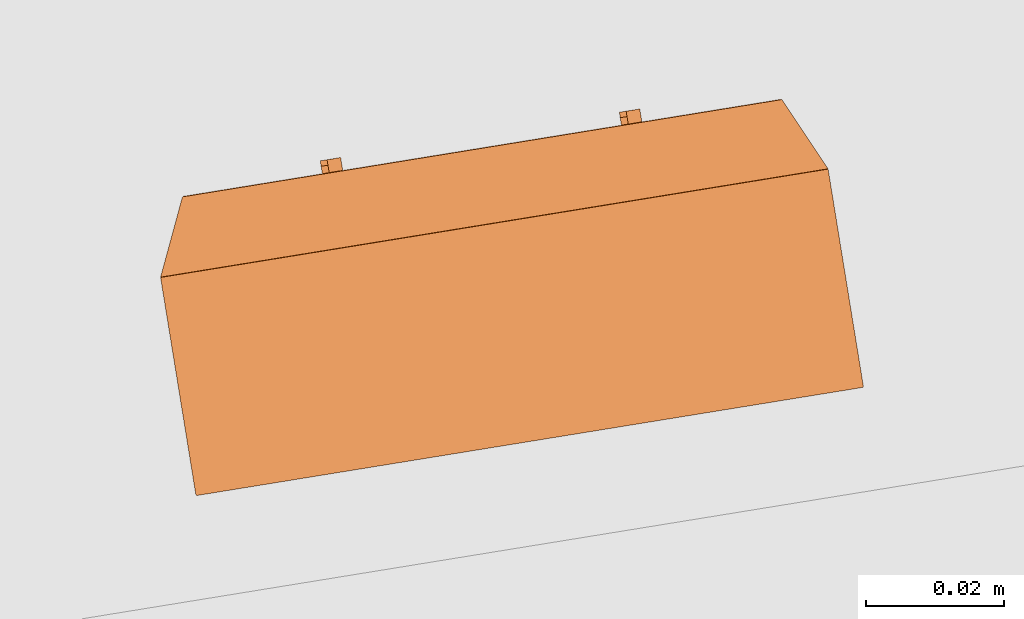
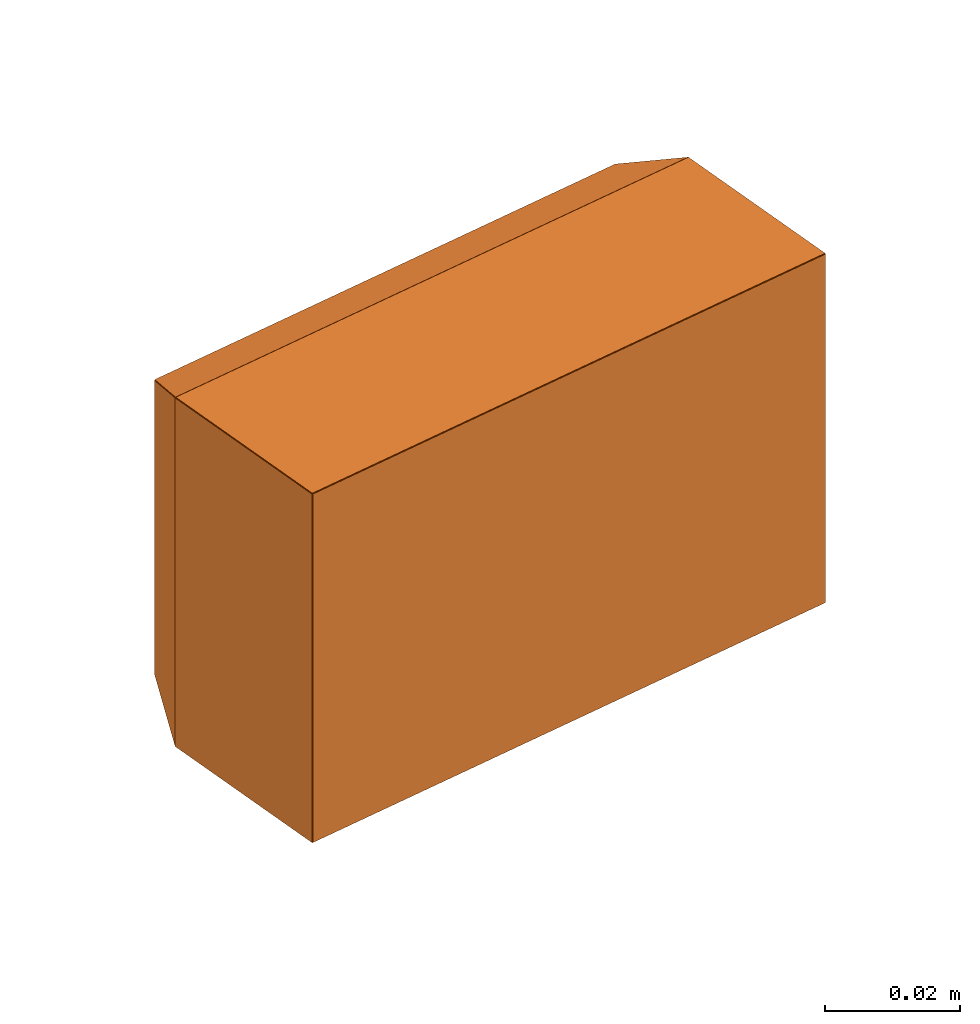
# One storey, part 12 of 33: 1 proxy.
"""IFC2X3 building model written with IfcOpenShell, lengths in millimetres."""

from ifc_helpers import new_model, entity, si_unit, converted_unit, derived_unit, direction, frame, frame_2d, origin, origin_with_axes, origin_2d_with_axis, place, context, subcontext, project, spatial, polyline, circle_curve, parameter, trimmed, segment, composite_curve, rectangle, circle, hollow_circle, outline, extrude, source, transform, mapped, material, type_object, element, save


model = new_model("IFC2X3")

# Units and contexts
plan_context = context("Plan", 3, precision=1e-05, world=origin_with_axes())
model_context = context("Model", 3, precision=0.01, world=origin(), true_north=direction((6.12323399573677e-17, 1.0)))
body_context = subcontext(model_context, "Body", "Model", "MODEL_VIEW")
ifc_project = project(units=[converted_unit("PLANEANGLEUNIT", "DEGREE", entity("IfcPositiveLengthMeasure", 0.0174532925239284), si_unit("PLANEANGLEUNIT", "RADIAN"), dimensions=[0, 0, 0, 0, 0, 0, 0]), si_unit("AREAUNIT", "SQUARE_METRE"), si_unit("LENGTHUNIT", "METRE", prefix="MILLI"), si_unit("MASSUNIT", "GRAM", prefix="KILO"), si_unit("POWERUNIT", "WATT"), si_unit("PRESSUREUNIT", "PASCAL", prefix="KILO"), si_unit("FORCEUNIT", "NEWTON", prefix="KILO"), si_unit("ELECTRICVOLTAGEUNIT", "VOLT"), si_unit("ELECTRICCURRENTUNIT", "AMPERE"), si_unit("THERMODYNAMICTEMPERATUREUNIT", "DEGREE_CELSIUS"), si_unit("TIMEUNIT", "SECOND"), si_unit("VOLUMEUNIT", "CUBIC_METRE"), derived_unit("LINEARVELOCITYUNIT", [(si_unit("LENGTHUNIT", "METRE"), 1), (si_unit("TIMEUNIT", "SECOND"), -1)]), derived_unit("VOLUMETRICFLOWRATEUNIT", [(si_unit("VOLUMEUNIT", "CUBIC_METRE"), 1), (si_unit("TIMEUNIT", "SECOND"), -1)]), derived_unit("THERMALTRANSMITTANCEUNIT", [(si_unit("POWERUNIT", "WATT"), 1), (si_unit("THERMODYNAMICTEMPERATUREUNIT", "KELVIN"), -1), (si_unit("AREAUNIT", "SQUARE_METRE"), -1)]), derived_unit("SOUNDPRESSUREUNIT", [(si_unit("PRESSUREUNIT", "PASCAL"), 1)])], contexts=[model_context, plan_context])

# Site, building, storey
site_placement = place(None, frame((-0.219946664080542, 0.12226179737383, 0.0), z_axis=(0.0, 0.0, 1.0), x_axis=(-0.160236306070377, 0.987078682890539, 0.0)))
site = spatial("IfcSite", under=ifc_project, at=site_placement, Name="Default", CompositionType="ELEMENT")
building_placement = place(site_placement, origin_with_axes())
building = spatial("IfcBuilding", under=site, at=building_placement, CompositionType="ELEMENT")
storey_placement = place(building_placement, frame((0.0, 0.0, 59000.0), z_axis=(0.0, 0.0, 1.0), x_axis=(1.0, 0.0, 0.0)))
storey = spatial("IfcBuildingStorey", under=building, at=storey_placement, Name="Nivå F", CompositionType="ELEMENT", Elevation=59000.0)

# Proxy
ifc_material = material(Name="<Unnamed>")
building_element_proxy_type = type_object("IfcBuildingElementProxyType", Name="Dobbel stikk på vegg 2P+J hor PH:EARTHED-SOCKET-2(HOR)", PredefinedType="NOTDEFINED", material=ifc_material)
shared_shape = source(origin(), body_context, "Body", "SweptSolid", [
    extrude(outline(composite_curve([segment(polyline([(-6.66666666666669, -6.66666666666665), (13.3333333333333, -6.66666666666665)]), True, "CONTINUOUS"), segment(trimmed(circle_curve(frame_2d((13.3333333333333, 13.3333333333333), x_axis=(0.0, -1.0)), 20.0), [parameter(270.0)], [parameter(5.08888749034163e-14)], True, "PARAMETER"), False, "CONTINUOUS"), segment(polyline([(-6.66666666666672, 13.3333333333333), (-6.66666666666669, -6.66666666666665)]), True, "CONTINUOUS")], self_intersect=False)), frame((35.3333333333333, 42.8999999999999, 13.3533333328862), z_axis=(0.0, 1.0, 0.0), x_axis=(0.0, 0.0, -1.0)), (0.0, 0.0, 1.0), 0.199999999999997),
    extrude(outline(composite_curve([segment(polyline([(-6.66666666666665, -6.66666666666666), (13.3333333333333, -6.66666666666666)]), True, "CONTINUOUS"), segment(trimmed(circle_curve(frame_2d((13.3333333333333, 13.3333333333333), x_axis=(-1.0, 0.0)), 20.0), [parameter(360.0)], [parameter(89.9999999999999)], True, "PARAMETER"), False, "CONTINUOUS"), segment(polyline([(-6.66666666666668, 13.3333333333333), (-6.66666666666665, -6.66666666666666)]), True, "CONTINUOUS")], self_intersect=False)), frame((35.3333333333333, 42.8999999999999, -13.3233333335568), z_axis=(0.0, 1.0, 0.0), x_axis=(-1.0, 0.0, 0.0)), (0.0, 0.0, 1.0), 0.199999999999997),
    extrude(outline(composite_curve([segment(polyline([(-6.66666666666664, -6.66666666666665), (13.3333333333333, -6.66666666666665)]), True, "CONTINUOUS"), segment(trimmed(circle_curve(frame_2d((13.3333333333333, 13.3333333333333), x_axis=(-1.0, 0.0)), 20.0), [parameter(0.0)], [parameter(89.9999999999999)], True, "PARAMETER"), False, "CONTINUOUS"), segment(polyline([(-6.66666666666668, 13.3333333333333), (-6.66666666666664, -6.66666666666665)]), True, "CONTINUOUS")], self_intersect=False)), frame((8.66666666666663, 42.8999999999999, 13.3433333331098), z_axis=(0.0, 1.0, 0.0), x_axis=(1.0, 0.0, 0.0)), (0.0, 0.0, 1.0), 0.199999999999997),
    extrude(outline(composite_curve([segment(polyline([(-6.66666666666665, -6.66666666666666), (13.3333333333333, -6.66666666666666)]), True, "CONTINUOUS"), segment(trimmed(circle_curve(frame_2d((13.3333333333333, 13.3333333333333), x_axis=(-1.0, 0.0)), 20.0), [parameter(360.0)], [parameter(89.9999999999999)], True, "PARAMETER"), False, "CONTINUOUS"), segment(polyline([(-6.66666666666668, 13.3333333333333), (-6.66666666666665, -6.66666666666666)]), True, "CONTINUOUS")], self_intersect=False)), frame((35.3333333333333, 42.8999999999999, -13.3433333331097), z_axis=(0.0, 1.0, 0.0), x_axis=(-1.0, 0.0, 0.0)), (0.0, 0.0, 1.0), 0.199999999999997),
    extrude(outline(composite_curve([segment(polyline([(-6.66666666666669, -6.66666666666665), (13.3333333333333, -6.66666666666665)]), True, "CONTINUOUS"), segment(trimmed(circle_curve(frame_2d((13.3333333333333, 13.3333333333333), x_axis=(0.0, -1.0)), 20.0), [parameter(270.0)], [parameter(5.08888749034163e-14)], True, "PARAMETER"), False, "CONTINUOUS"), segment(polyline([(-6.66666666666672, 13.3333333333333), (-6.66666666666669, -6.66666666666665)]), True, "CONTINUOUS")], self_intersect=False)), frame((35.3333333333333, 42.8999999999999, 13.3333333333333), z_axis=(0.0, 1.0, 0.0), x_axis=(0.0, 0.0, -1.0)), (0.0, 0.0, 1.0), 0.199999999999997),
    extrude(outline(composite_curve([segment(polyline([(-6.66666666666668, -6.66666666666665), (13.3333333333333, -6.66666666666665)]), True, "CONTINUOUS"), segment(trimmed(circle_curve(frame_2d((13.3333333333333, 13.3333333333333), x_axis=(0.0, -1.0)), 20.0), [parameter(270.0)], [parameter(0.0)], True, "PARAMETER"), False, "CONTINUOUS"), segment(polyline([(-6.66666666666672, 13.3333333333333), (-6.66666666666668, -6.66666666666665)]), True, "CONTINUOUS")], self_intersect=False)), frame((8.66666666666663, 42.8999999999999, -13.3333333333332), z_axis=(0.0, 1.0, 0.0), x_axis=(0.0, 0.0, 1.0)), (0.0, 0.0, 1.0), 0.199999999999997),
    extrude(outline(composite_curve([segment(polyline([(-6.66666666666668, -6.66666666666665), (13.3333333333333, -6.66666666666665)]), True, "CONTINUOUS"), segment(trimmed(circle_curve(frame_2d((13.3333333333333, 13.3333333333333), x_axis=(0.0, -1.0)), 20.0), [parameter(270.0)], [parameter(0.0)], True, "PARAMETER"), False, "CONTINUOUS"), segment(polyline([(-6.66666666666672, 13.3333333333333), (-6.66666666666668, -6.66666666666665)]), True, "CONTINUOUS")], self_intersect=False)), frame((-8.66666666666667, 42.8999999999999, 13.3533333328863), z_axis=(0.0, 1.0, 0.0), x_axis=(0.0, 0.0, -1.0)), (0.0, 0.0, 1.0), 0.199999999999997),
    extrude(outline(composite_curve([segment(polyline([(-6.66666666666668, -6.66666666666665), (13.3333333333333, -6.66666666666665)]), True, "CONTINUOUS"), segment(trimmed(circle_curve(frame_2d((13.3333333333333, 13.3333333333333), x_axis=(-1.0, 0.0)), 20.0), [parameter(0.0)], [parameter(90.0)], True, "PARAMETER"), False, "CONTINUOUS"), segment(polyline([(-6.66666666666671, 13.3333333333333), (-6.66666666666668, -6.66666666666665)]), True, "CONTINUOUS")], self_intersect=False)), frame((-8.66666666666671, 42.8999999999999, -13.3233333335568), z_axis=(0.0, 1.0, 0.0), x_axis=(-1.0, 0.0, 0.0)), (0.0, 0.0, 1.0), 0.199999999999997),
    extrude(outline(composite_curve([segment(polyline([(-6.66666666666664, -6.66666666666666), (13.3333333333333, -6.66666666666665)]), True, "CONTINUOUS"), segment(trimmed(circle_curve(frame_2d((13.3333333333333, 13.3333333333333), x_axis=(-1.0, 0.0)), 20.0), [parameter(360.0)], [parameter(89.9999999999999)], True, "PARAMETER"), False, "CONTINUOUS"), segment(polyline([(-6.66666666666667, 13.3333333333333), (-6.66666666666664, -6.66666666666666)]), True, "CONTINUOUS")], self_intersect=False)), frame((-35.3333333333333, 42.8999999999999, 13.3433333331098), z_axis=(0.0, 1.0, 0.0), x_axis=(1.0, 0.0, 0.0)), (0.0, 0.0, 1.0), 0.199999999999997),
    extrude(outline(composite_curve([segment(polyline([(-6.66666666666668, -6.66666666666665), (13.3333333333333, -6.66666666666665)]), True, "CONTINUOUS"), segment(trimmed(circle_curve(frame_2d((13.3333333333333, 13.3333333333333), x_axis=(-1.0, 0.0)), 20.0), [parameter(0.0)], [parameter(90.0)], True, "PARAMETER"), False, "CONTINUOUS"), segment(polyline([(-6.66666666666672, 13.3333333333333), (-6.66666666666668, -6.66666666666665)]), True, "CONTINUOUS")], self_intersect=False)), frame((-8.66666666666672, 42.8999999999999, -13.3433333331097), z_axis=(0.0, 1.0, 0.0), x_axis=(-1.0, 0.0, 0.0)), (0.0, 0.0, 1.0), 0.199999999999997),
    extrude(outline(composite_curve([segment(polyline([(-6.66666666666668, -6.66666666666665), (13.3333333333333, -6.66666666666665)]), True, "CONTINUOUS"), segment(trimmed(circle_curve(frame_2d((13.3333333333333, 13.3333333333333), x_axis=(0.0, -1.0)), 20.0), [parameter(270.0)], [parameter(0.0)], True, "PARAMETER"), False, "CONTINUOUS"), segment(polyline([(-6.66666666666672, 13.3333333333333), (-6.66666666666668, -6.66666666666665)]), True, "CONTINUOUS")], self_intersect=False)), frame((-8.66666666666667, 42.8999999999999, 13.3333333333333), z_axis=(0.0, 1.0, 0.0), x_axis=(0.0, 0.0, -1.0)), (0.0, 0.0, 1.0), 0.199999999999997),
    extrude(outline(composite_curve([segment(polyline([(-6.66666666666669, -6.66666666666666), (13.3333333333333, -6.66666666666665)]), True, "CONTINUOUS"), segment(trimmed(circle_curve(frame_2d((13.3333333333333, 13.3333333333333), x_axis=(0.0, -1.0)), 20.0), [parameter(270.0)], [parameter(5.08888749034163e-14)], True, "PARAMETER"), False, "CONTINUOUS"), segment(polyline([(-6.66666666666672, 13.3333333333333), (-6.66666666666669, -6.66666666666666)]), True, "CONTINUOUS")], self_intersect=False)), frame((-35.3333333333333, 42.8999999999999, -13.3333333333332), z_axis=(0.0, 1.0, 0.0), x_axis=(0.0, 0.0, 1.0)), (0.0, 0.0, 1.0), 0.199999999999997),
    extrude(rectangle(XDim=9.99999999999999, YDim=1.0, at=frame_2d((0.0, 2.1094237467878e-15), x_axis=(1.0, 0.0))), frame((22.0, 40.0, -17.6), z_axis=(0.0, 0.0, 1.0), x_axis=(0.0, -1.0, 0.0)), (0.0, 0.0, 1.0), 0.199999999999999),
    extrude(rectangle(XDim=21.5, YDim=1.0, at=frame_2d((0.0, 8.43769498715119e-15), x_axis=(1.0, 0.0))), frame((22.0, 32.25, -19.6), z_axis=(0.0, 0.0, 1.0), x_axis=(0.0, -1.0, 0.0)), (0.0, 0.0, 1.0), 0.200000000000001),
    extrude(rectangle(XDim=9.99999999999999, YDim=1.0, at=frame_2d((0.0, 2.1094237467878e-15), x_axis=(1.0, 0.0))), frame((22.0, 40.0, 17.4), z_axis=(0.0, 0.0, 1.0), x_axis=(0.0, -1.0, 0.0)), (0.0, 0.0, 1.0), 0.199999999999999),
    extrude(rectangle(XDim=21.5, YDim=1.0, at=frame_2d((0.0, 8.43769498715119e-15), x_axis=(1.0, 0.0))), frame((22.0, 32.25, 19.4), z_axis=(0.0, 0.0, 1.0), x_axis=(0.0, -1.0, 0.0)), (0.0, 0.0, 1.0), 0.200000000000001),
    extrude(rectangle(XDim=9.99999999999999, YDim=1.0, at=frame_2d((0.0, -2.1094237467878e-15), x_axis=(1.0, 0.0))), frame((-22.0, 40.0, -17.6), z_axis=(0.0, 0.0, 1.0), x_axis=(0.0, -1.0, 0.0)), (0.0, 0.0, 1.0), 0.199999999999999),
    extrude(rectangle(XDim=21.5, YDim=1.0, at=frame_2d((0.0, 8.43769498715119e-15), x_axis=(1.0, 0.0))), frame((-22.0, 32.25, -19.6), z_axis=(0.0, 0.0, 1.0), x_axis=(0.0, -1.0, 0.0)), (0.0, 0.0, 1.0), 0.200000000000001),
    extrude(rectangle(XDim=9.99999999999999, YDim=1.0, at=frame_2d((0.0, -2.1094237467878e-15), x_axis=(1.0, 0.0))), frame((-22.0, 40.0, 17.4), z_axis=(0.0, 0.0, 1.0), x_axis=(0.0, -1.0, 0.0)), (0.0, 0.0, 1.0), 0.199999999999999),
    extrude(rectangle(XDim=21.5, YDim=1.0, at=frame_2d((0.0, 8.43769498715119e-15), x_axis=(1.0, 0.0))), frame((-22.0, 32.25, 19.4), z_axis=(0.0, 0.0, 1.0), x_axis=(0.0, -1.0, 0.0)), (0.0, 0.0, 1.0), 0.200000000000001),
    extrude(rectangle(XDim=0.199999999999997, YDim=2.0, at=frame_2d((4.2257863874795e-15, 0.0), x_axis=(1.0, 0.0))), frame((43.0, 43.0, 0.0199999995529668), z_axis=(0.0, 0.0, 1.0), x_axis=(0.0, 1.0, 0.0)), (0.0, 0.0, 1.0), 20.0),
    extrude(rectangle(XDim=0.199999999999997, YDim=40.0, at=frame_2d((4.2257863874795e-15, 0.0), x_axis=(1.0, 0.0))), frame((22.0, 43.0, 20.0199999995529), z_axis=(0.0, 0.0, 1.0), x_axis=(0.0, 1.0, 0.0)), (0.0, 0.0, 1.0), 6.5),
    extrude(rectangle(XDim=0.199999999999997, YDim=2.0, at=frame_2d((4.2257863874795e-15, 0.0), x_axis=(1.0, 0.0))), frame((43.0, 43.0, -19.9900000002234), z_axis=(0.0, 0.0, 1.0), x_axis=(0.0, -1.0, 0.0)), (0.0, 0.0, 1.0), 20.0),
    extrude(rectangle(XDim=0.199999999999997, YDim=40.0, at=frame_2d((4.2257863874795e-15, 0.0), x_axis=(1.0, 0.0))), frame((22.0, 43.0, -26.4900000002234), z_axis=(0.0, 0.0, 1.0), x_axis=(0.0, -1.0, 0.0)), (0.0, 0.0, 1.0), 6.49999999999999),
    extrude(rectangle(XDim=0.199999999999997, YDim=2.0, at=frame_2d((4.2257863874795e-15, 0.0), x_axis=(1.0, 0.0))), frame((1.0, 43.0, 0.00999999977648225), z_axis=(0.0, 0.0, 1.0), x_axis=(0.0, -1.0, 0.0)), (0.0, 0.0, 1.0), 20.0),
    extrude(rectangle(XDim=0.199999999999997, YDim=2.0, at=frame_2d((4.2257863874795e-15, 0.0), x_axis=(1.0, 0.0))), frame((43.0, 43.0, -20.0099999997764), z_axis=(0.0, 0.0, 1.0), x_axis=(0.0, -1.0, 0.0)), (0.0, 0.0, 1.0), 20.0),
    extrude(rectangle(XDim=0.199999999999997, YDim=40.0, at=frame_2d((4.2257863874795e-15, 0.0), x_axis=(1.0, 0.0))), frame((22.0, 43.0, -26.5099999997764), z_axis=(0.0, 0.0, 1.0), x_axis=(0.0, -1.0, 0.0)), (0.0, 0.0, 1.0), 6.5),
    extrude(rectangle(XDim=0.199999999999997, YDim=2.0, at=frame_2d((4.2257863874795e-15, 0.0), x_axis=(1.0, 0.0))), frame((43.0, 43.0, 0.0), z_axis=(0.0, 0.0, 1.0), x_axis=(0.0, 1.0, 0.0)), (0.0, 0.0, 1.0), 20.0),
    extrude(rectangle(XDim=0.199999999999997, YDim=40.0, at=frame_2d((4.2257863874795e-15, 0.0), x_axis=(1.0, 0.0))), frame((22.0, 43.0, 20.0), z_axis=(0.0, 0.0, 1.0), x_axis=(0.0, 1.0, 0.0)), (0.0, 0.0, 1.0), 6.5),
    extrude(rectangle(XDim=0.199999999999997, YDim=2.0, at=frame_2d((4.2257863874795e-15, 0.0), x_axis=(1.0, 0.0))), frame((1.0, 43.0, -20.0), z_axis=(0.0, 0.0, 1.0), x_axis=(0.0, 1.0, 0.0)), (0.0, 0.0, 1.0), 20.0),
    extrude(rectangle(XDim=0.199999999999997, YDim=2.0, at=frame_2d((4.2257863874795e-15, 0.0), x_axis=(1.0, 0.0))), frame((-1.0, 43.0, 0.0199999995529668), z_axis=(0.0, 0.0, 1.0), x_axis=(0.0, 1.0, 0.0)), (0.0, 0.0, 1.0), 20.0),
    extrude(rectangle(XDim=0.199999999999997, YDim=40.0, at=frame_2d((4.2257863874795e-15, 0.0), x_axis=(1.0, 0.0))), frame((-22.0, 43.0, 20.0199999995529), z_axis=(0.0, 0.0, 1.0), x_axis=(0.0, 1.0, 0.0)), (0.0, 0.0, 1.0), 6.5),
    extrude(rectangle(XDim=0.199999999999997, YDim=2.0, at=frame_2d((4.2257863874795e-15, 0.0), x_axis=(1.0, 0.0))), frame((-1.0, 43.0, -19.9900000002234), z_axis=(0.0, 0.0, 1.0), x_axis=(0.0, -1.0, 0.0)), (0.0, 0.0, 1.0), 20.0),
    extrude(rectangle(XDim=0.199999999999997, YDim=40.0, at=frame_2d((4.2257863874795e-15, 0.0), x_axis=(1.0, 0.0))), frame((-22.0, 43.0, -26.4900000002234), z_axis=(0.0, 0.0, 1.0), x_axis=(0.0, -1.0, 0.0)), (0.0, 0.0, 1.0), 6.49999999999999),
    extrude(rectangle(XDim=0.199999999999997, YDim=1.99999999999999, at=frame_2d((4.2257863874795e-15, 4.2188474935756e-15), x_axis=(1.0, 0.0))), frame((-43.0, 43.0, 0.00999999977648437), z_axis=(0.0, 0.0, 1.0), x_axis=(0.0, -1.0, 0.0)), (0.0, 0.0, 1.0), 20.0),
    extrude(rectangle(XDim=0.199999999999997, YDim=2.0, at=frame_2d((4.2257863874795e-15, 0.0), x_axis=(1.0, 0.0))), frame((-1.0, 43.0, -20.0099999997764), z_axis=(0.0, 0.0, 1.0), x_axis=(0.0, -1.0, 0.0)), (0.0, 0.0, 1.0), 20.0),
    extrude(rectangle(XDim=0.199999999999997, YDim=40.0, at=frame_2d((4.2257863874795e-15, 0.0), x_axis=(1.0, 0.0))), frame((-22.0, 43.0, -26.5099999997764), z_axis=(0.0, 0.0, 1.0), x_axis=(0.0, -1.0, 0.0)), (0.0, 0.0, 1.0), 6.5),
    extrude(rectangle(XDim=0.199999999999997, YDim=2.0, at=frame_2d((4.2257863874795e-15, 0.0), x_axis=(1.0, 0.0))), frame((-1.0, 43.0, 0.0), z_axis=(0.0, 0.0, 1.0), x_axis=(0.0, 1.0, 0.0)), (0.0, 0.0, 1.0), 20.0),
    extrude(rectangle(XDim=0.199999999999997, YDim=40.0, at=frame_2d((4.2257863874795e-15, 0.0), x_axis=(1.0, 0.0))), frame((-22.0, 43.0, 20.0), z_axis=(0.0, 0.0, 1.0), x_axis=(0.0, 1.0, 0.0)), (0.0, 0.0, 1.0), 6.5),
    extrude(rectangle(XDim=0.199999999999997, YDim=1.99999999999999, at=frame_2d((4.2257863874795e-15, -4.2188474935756e-15), x_axis=(1.0, 0.0))), frame((-43.0, 43.0, -20.0), z_axis=(0.0, 0.0, 1.0), x_axis=(0.0, 1.0, 0.0)), (0.0, 0.0, 1.0), 20.0),
    extrude(rectangle(XDim=0.199999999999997, YDim=2.0, at=frame_2d((4.2257863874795e-15, 0.0), x_axis=(1.0, 0.0))), frame((-1.0, 43.0, -26.5), z_axis=(0.0, 0.0, 1.0), x_axis=(0.0, 1.0, 0.0)), (0.0, 0.0, 1.0), 6.49999999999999),
    extrude(rectangle(XDim=0.199999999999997, YDim=1.99999999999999, at=frame_2d((4.2257863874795e-15, 4.2188474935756e-15), x_axis=(1.0, 0.0))), frame((-43.0, 43.0, -26.5), z_axis=(0.0, 0.0, 1.0), x_axis=(0.0, 1.0, 0.0)), (0.0, 0.0, 1.0), 6.49999999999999),
    extrude(rectangle(XDim=0.199999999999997, YDim=2.0, at=frame_2d((4.2257863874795e-15, 0.0), x_axis=(1.0, 0.0))), frame((1.0, 43.0, -26.5), z_axis=(0.0, 0.0, 1.0), x_axis=(0.0, 1.0, 0.0)), (0.0, 0.0, 1.0), 6.49999999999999),
    extrude(rectangle(XDim=0.199999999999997, YDim=1.99999999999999, at=frame_2d((4.2257863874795e-15, -4.2188474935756e-15), x_axis=(1.0, 0.0))), frame((43.0, 43.0, -26.5), z_axis=(0.0, 0.0, 1.0), x_axis=(0.0, 1.0, 0.0)), (0.0, 0.0, 1.0), 6.49999999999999),
    extrude(outline(polyline([(-24.3180677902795, -42.966633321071), (-11.2413709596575, -42.9666333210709), (22.4062700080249, 38.3465652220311), (13.1531687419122, 47.5867014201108), (-24.3180677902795, -42.966633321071)])), frame((0.0, 37.5413802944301, -29.0910366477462), z_axis=(0.0, -0.413802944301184, 0.910366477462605), x_axis=(-0.382359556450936, 0.84119102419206, 0.382359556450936)), (0.0, 0.0, 1.0), 0.199999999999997),
    extrude(outline(polyline([(-31.5, -6.04152298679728), (31.5, -6.04152298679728), (26.5, 6.04152298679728), (-26.5, 6.04152298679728), (-31.5, -6.04152298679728)])), frame((-46.5910366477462, 37.5413802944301, 0.0), z_axis=(0.910366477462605, -0.413802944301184, 0.0), x_axis=(0.0, 0.0, -1.0)), (0.0, 0.0, 1.0), 0.200000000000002),
    extrude(outline(polyline([(-31.5, -6.04152298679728), (31.5, -6.04152298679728), (26.5, 6.04152298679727), (-26.5, 6.04152298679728), (-31.5, -6.04152298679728)])), frame((46.4089633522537, 37.4586197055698, 0.0), z_axis=(0.910366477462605, 0.413802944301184, 0.0), x_axis=(0.0, 0.0, -1.0)), (0.0, 0.0, 1.0), 0.199999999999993),
    extrude(rectangle(XDim=32.0, YDim=97.9999999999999, at=frame_2d((1.77635683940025e-15, 0.0), x_axis=(1.0, 0.0))), frame((0.0, 16.0, -31.6), z_axis=(0.0, 0.0, 1.0), x_axis=(0.0, -1.0, 0.0)), (0.0, 0.0, 1.0), 0.200000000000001),
    extrude(rectangle(XDim=0.199999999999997, YDim=2.0, at=frame_2d((4.2257863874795e-15, 0.0), x_axis=(1.0, 0.0))), frame((-1.0, 43.0, 20.0), z_axis=(0.0, 0.0, 1.0), x_axis=(0.0, 1.0, 0.0)), (0.0, 0.0, 1.0), 6.49999999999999),
    extrude(rectangle(XDim=0.199999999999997, YDim=1.99999999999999, at=frame_2d((4.2257863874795e-15, 4.2188474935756e-15), x_axis=(1.0, 0.0))), frame((-43.0, 43.0, 20.0), z_axis=(0.0, 0.0, 1.0), x_axis=(0.0, 1.0, 0.0)), (0.0, 0.0, 1.0), 6.49999999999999),
    extrude(outline(polyline([(-44.0, -6.04152298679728), (44.0, -6.04152298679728), (49.0, 6.04152298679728), (-49.0, 6.04152298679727), (-44.0, -6.04152298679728)])), frame((0.0, 37.4586197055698, 28.9089633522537), z_axis=(0.0, 0.413802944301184, 0.910366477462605), x_axis=(-1.0, 0.0, 0.0)), (0.0, 0.0, 1.0), 0.200000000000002),
    extrude(rectangle(XDim=0.199999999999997, YDim=2.0, at=frame_2d((4.2257863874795e-15, 0.0), x_axis=(1.0, 0.0))), frame((1.0, 43.0, 20.0), z_axis=(0.0, 0.0, 1.0), x_axis=(0.0, 1.0, 0.0)), (0.0, 0.0, 1.0), 6.49999999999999),
    extrude(rectangle(XDim=0.199999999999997, YDim=1.99999999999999, at=frame_2d((4.2257863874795e-15, -4.2188474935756e-15), x_axis=(1.0, 0.0))), frame((43.0, 43.0, 20.0), z_axis=(0.0, 0.0, 1.0), x_axis=(0.0, 1.0, 0.0)), (0.0, 0.0, 1.0), 6.49999999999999),
    extrude(rectangle(XDim=32.0, YDim=97.9999999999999, at=frame_2d((1.77635683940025e-15, 0.0), x_axis=(1.0, 0.0))), frame((0.0, 16.0, 31.4), z_axis=(0.0, 0.0, 1.0), x_axis=(0.0, -1.0, 0.0)), (0.0, 0.0, 1.0), 0.200000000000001),
    extrude(rectangle(XDim=0.199999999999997, YDim=32.0, at=frame_2d((-4.2257863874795e-15, 0.0), x_axis=(1.0, 0.0))), frame((49.0, 16.0, -31.5)), (0.0, 0.0, 1.0), 62.9999999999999),
    extrude(rectangle(XDim=0.199999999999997, YDim=32.0, at=frame_2d((-4.2257863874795e-15, 0.0), x_axis=(1.0, 0.0))), frame((-49.0, 16.0, -31.5)), (0.0, 0.0, 1.0), 62.9999999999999),
    extrude(rectangle(XDim=0.2, YDim=97.9999999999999, at=origin_2d_with_axis()), frame((0.0, 0.0, -31.5), z_axis=(0.0, 0.0, 1.0), x_axis=(0.0, 1.0, 0.0)), (0.0, 0.0, 1.0), 62.9999999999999),
    extrude(circle(Radius=2.5, at=frame_2d((0.0, -4.22994972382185e-15), x_axis=(1.0, 0.0))), frame((32.0, 21.450000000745, 0.0), z_axis=(0.0, 1.0, 0.0), x_axis=(0.0, 0.0, 1.0)), (0.0, 0.0, 1.0), 0.200000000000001),
    extrude(circle(Radius=2.5, at=frame_2d((0.0, -4.22994972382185e-15), x_axis=(1.0, 0.0))), frame((12.0, 21.450000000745, 0.0), z_axis=(0.0, 1.0, 0.0), x_axis=(0.0, 0.0, 1.0)), (0.0, 0.0, 1.0), 0.200000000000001),
    extrude(circle(Radius=2.5, at=frame_2d((0.0, -4.22994972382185e-15), x_axis=(1.0, 0.0))), frame((-12.0, 21.450000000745, 0.0), z_axis=(0.0, 1.0, 0.0), x_axis=(0.0, 0.0, 1.0)), (0.0, 0.0, 1.0), 0.200000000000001),
    extrude(circle(Radius=2.5, at=frame_2d((0.0, -4.22994972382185e-15), x_axis=(1.0, 0.0))), frame((-32.0, 21.450000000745, 0.0), z_axis=(0.0, 1.0, 0.0), x_axis=(0.0, 0.0, 1.0)), (0.0, 0.0, 1.0), 0.200000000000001),
    extrude(circle(Radius=20.0, at=frame_2d((0.0, -2.96096480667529e-14), x_axis=(1.0, 0.0))), frame((22.0, 21.4, 0.0), z_axis=(0.0, 1.0, 0.0), x_axis=(0.0, 0.0, 1.0)), (0.0, 0.0, 1.0), 0.200000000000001),
    extrude(circle(Radius=20.0, at=frame_2d((0.0, -2.96096480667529e-14), x_axis=(1.0, 0.0))), frame((-22.0, 21.4, 0.0), z_axis=(0.0, 1.0, 0.0), x_axis=(0.0, 0.0, 1.0)), (0.0, 0.0, 1.0), 0.200000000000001),
    extrude(outline(composite_curve([segment(trimmed(circle_curve(frame_2d((-0.800000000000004, 0.800000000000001), x_axis=(1.0, 0.0)), 2.0), [parameter(270.0)], [parameter(0.0)], True, "PARAMETER"), True, "CONTINUOUS"), segment(polyline([(1.2, 0.8), (0.399999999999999, 0.8)]), True, "CONTINUOUS"), segment(trimmed(circle_curve(frame_2d((-0.800000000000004, 0.799999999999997), x_axis=(0.0, -1.0)), 1.2), [parameter(0.0)], [parameter(89.9999999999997)], True, "PARAMETER"), False, "CONTINUOUS"), segment(polyline([(-0.799999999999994, -0.400000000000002), (-0.799999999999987, -1.2)]), True, "CONTINUOUS")], self_intersect=False)), frame((20.5, 43.7999999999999, -18.3), z_axis=(1.0, 0.0, 0.0), x_axis=(0.0, 1.0, 0.0)), (0.0, 0.0, 1.0), 2.0),
    extrude(outline(composite_curve([segment(polyline([(-1.2, -0.800000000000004), (-0.399999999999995, -0.800000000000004)]), True, "CONTINUOUS"), segment(trimmed(circle_curve(frame_2d((0.800000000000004, -0.800000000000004), x_axis=(-1.0, 0.0)), 1.2), [parameter(270.0)], [parameter(0.0)], True, "PARAMETER"), False, "CONTINUOUS"), segment(polyline([(0.799999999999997, 0.399999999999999), (0.79999999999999, 1.2)]), True, "CONTINUOUS"), segment(trimmed(circle_curve(frame_2d((0.800000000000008, -0.800000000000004), x_axis=(0.0, 1.0)), 2.0), [parameter(0.0)], [parameter(89.9999999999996)], True, "PARAMETER"), True, "CONTINUOUS")], self_intersect=False)), frame((21.5, 43.8, 18.3), z_axis=(1.0, 0.0, 0.0), x_axis=(0.0, 0.0, -1.0)), (0.0, 0.0, 1.0), 2.0),
    extrude(outline(composite_curve([segment(trimmed(circle_curve(frame_2d((-0.800000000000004, 0.800000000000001), x_axis=(1.0, 0.0)), 2.0), [parameter(270.0)], [parameter(0.0)], True, "PARAMETER"), True, "CONTINUOUS"), segment(polyline([(1.2, 0.8), (0.399999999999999, 0.8)]), True, "CONTINUOUS"), segment(trimmed(circle_curve(frame_2d((-0.800000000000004, 0.799999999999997), x_axis=(0.0, -1.0)), 1.2), [parameter(0.0)], [parameter(89.9999999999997)], True, "PARAMETER"), False, "CONTINUOUS"), segment(polyline([(-0.799999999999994, -0.400000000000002), (-0.799999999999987, -1.2)]), True, "CONTINUOUS")], self_intersect=False)), frame((-23.5, 43.7999999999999, -18.3), z_axis=(1.0, 0.0, 0.0), x_axis=(0.0, 1.0, 0.0)), (0.0, 0.0, 1.0), 2.0),
    extrude(outline(composite_curve([segment(polyline([(-1.2, -0.800000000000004), (-0.399999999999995, -0.800000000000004)]), True, "CONTINUOUS"), segment(trimmed(circle_curve(frame_2d((0.800000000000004, -0.800000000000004), x_axis=(-1.0, 0.0)), 1.2), [parameter(270.0)], [parameter(0.0)], True, "PARAMETER"), False, "CONTINUOUS"), segment(polyline([(0.799999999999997, 0.399999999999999), (0.79999999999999, 1.2)]), True, "CONTINUOUS"), segment(trimmed(circle_curve(frame_2d((0.800000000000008, -0.800000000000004), x_axis=(0.0, 1.0)), 2.0), [parameter(0.0)], [parameter(89.9999999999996)], True, "PARAMETER"), True, "CONTINUOUS")], self_intersect=False)), frame((-22.5, 43.8, 18.3), z_axis=(1.0, 0.0, 0.0), x_axis=(0.0, 0.0, -1.0)), (0.0, 0.0, 1.0), 2.0),
    extrude(hollow_circle(Radius=20.0, WallThickness=0.199999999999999, at=frame_2d((0.0, -2.96096480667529e-14), x_axis=(1.0, 0.0))), frame((22.0, 21.5, 0.0), z_axis=(0.0, 1.0, 0.0), x_axis=(0.0, 0.0, 1.0)), (0.0, 0.0, 1.0), 21.5),
    extrude(hollow_circle(Radius=20.0, WallThickness=0.199999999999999, at=frame_2d((0.0, -2.96096480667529e-14), x_axis=(1.0, 0.0))), frame((-22.0, 21.5, 0.0), z_axis=(0.0, 1.0, 0.0), x_axis=(0.0, 0.0, 1.0)), (0.0, 0.0, 1.0), 21.5),
])
proxy_placement = place(storey_placement, frame((771002.719644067, -504311.550336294, 200.0), z_axis=(0.0, 0.0, 1.0), x_axis=(0.0, -1.0, 0.0)))
element("IfcBuildingElementProxy", 1, at=proxy_placement, inside=storey, type_object=building_element_proxy_type, material=ifc_material, Name="Dobbel stikk på vegg 2P+J hor PH:EARTHED-SOCKET-2(HOR)", ObjectType="Dobbel stikk på vegg 2P+J hor PH:EARTHED-SOCKET-2(HOR)", context=body_context, shape_type="MappedRepresentation", body=[
    mapped(shared_shape, transform((0.0, 0.0, 0.0), scale=1.0)),
])

save(model, "model.ifc")
